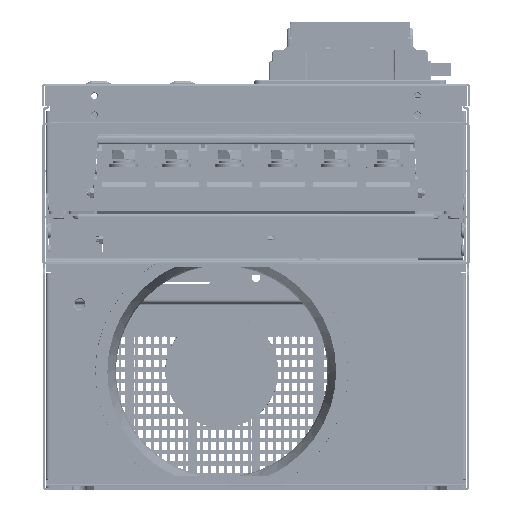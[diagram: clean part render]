
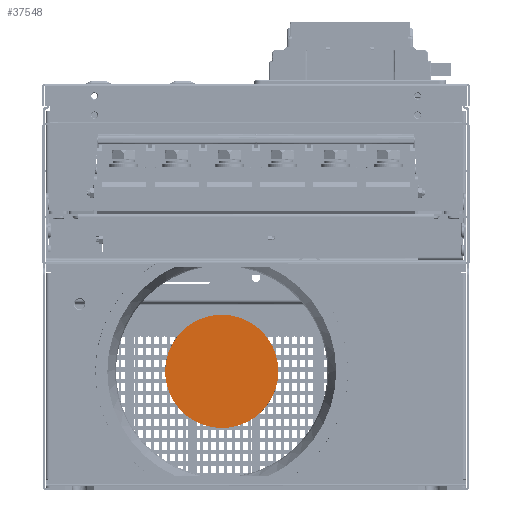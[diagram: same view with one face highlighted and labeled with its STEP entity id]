
A CAD part, front view. The second image highlights one B-rep face of the part: STEP entity #37548.
In plain terms, the highlighted planar face has unit normal (0, -1, 0).
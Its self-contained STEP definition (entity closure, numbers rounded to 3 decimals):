
#37548=ADVANCED_FACE('',(#50160),#370050,.T.);
#50160=FACE_OUTER_BOUND('',#63398,.T.);
#63398=EDGE_LOOP('',(#96954,#96955,#96956,#96957));
#96954=ORIENTED_EDGE('',*,*,#174765,.F.);
#96955=ORIENTED_EDGE('',*,*,#174764,.F.);
#96956=ORIENTED_EDGE('',*,*,#174767,.F.);
#96957=ORIENTED_EDGE('',*,*,#174766,.F.);
#174764=EDGE_CURVE('',#314139,#314140,#394226,.T.);
#174765=EDGE_CURVE('',#314140,#314141,#394227,.T.);
#174766=EDGE_CURVE('',#314141,#314142,#394228,.T.);
#174767=EDGE_CURVE('',#314142,#314139,#394229,.T.);
#314139=VERTEX_POINT('',#564930);
#314140=VERTEX_POINT('',#564931);
#314141=VERTEX_POINT('',#564932);
#314142=VERTEX_POINT('',#564933);
#370050=PLANE('',#406173);
#394226=(
BOUNDED_CURVE()
B_SPLINE_CURVE(2,(#564934,#564935,#564936),.UNSPECIFIED.,.F.,.F.)
B_SPLINE_CURVE_WITH_KNOTS((3,3),(0.,60.476),.UNSPECIFIED.)
CURVE()
GEOMETRIC_REPRESENTATION_ITEM()
RATIONAL_B_SPLINE_CURVE((1.,0.707,1.))
REPRESENTATION_ITEM('')
);
#394227=(
BOUNDED_CURVE()
B_SPLINE_CURVE(2,(#564937,#564938,#564939),.UNSPECIFIED.,.F.,.F.)
B_SPLINE_CURVE_WITH_KNOTS((3,3),(0.,60.476),.UNSPECIFIED.)
CURVE()
GEOMETRIC_REPRESENTATION_ITEM()
RATIONAL_B_SPLINE_CURVE((1.,0.707,1.))
REPRESENTATION_ITEM('')
);
#394228=(
BOUNDED_CURVE()
B_SPLINE_CURVE(2,(#564940,#564941,#564942),.UNSPECIFIED.,.F.,.F.)
B_SPLINE_CURVE_WITH_KNOTS((3,3),(0.,60.476),.UNSPECIFIED.)
CURVE()
GEOMETRIC_REPRESENTATION_ITEM()
RATIONAL_B_SPLINE_CURVE((1.,0.707,1.))
REPRESENTATION_ITEM('')
);
#394229=(
BOUNDED_CURVE()
B_SPLINE_CURVE(2,(#564943,#564944,#564945),.UNSPECIFIED.,.F.,.F.)
B_SPLINE_CURVE_WITH_KNOTS((3,3),(0.,60.476),.UNSPECIFIED.)
CURVE()
GEOMETRIC_REPRESENTATION_ITEM()
RATIONAL_B_SPLINE_CURVE((1.,0.707,1.))
REPRESENTATION_ITEM('')
);
#406173=AXIS2_PLACEMENT_3D('',#564929,#413224,$);
#413224=DIRECTION('',(0.,-1.,0.));
#564929=CARTESIAN_POINT('',(22.96,-314.,126.96));
#564930=CARTESIAN_POINT('',(-23.3,-314.,42.2));
#564931=CARTESIAN_POINT('',(-61.8,-314.,80.7));
#564932=CARTESIAN_POINT('',(-23.3,-314.,119.2));
#564933=CARTESIAN_POINT('',(15.2,-314.,80.7));
#564934=CARTESIAN_POINT('',(-23.3,-314.,42.2));
#564935=CARTESIAN_POINT('',(-61.8,-314.,42.2));
#564936=CARTESIAN_POINT('',(-61.8,-314.,80.7));
#564937=CARTESIAN_POINT('',(-61.8,-314.,80.7));
#564938=CARTESIAN_POINT('',(-61.8,-314.,119.2));
#564939=CARTESIAN_POINT('',(-23.3,-314.,119.2));
#564940=CARTESIAN_POINT('',(-23.3,-314.,119.2));
#564941=CARTESIAN_POINT('',(15.2,-314.,119.2));
#564942=CARTESIAN_POINT('',(15.2,-314.,80.7));
#564943=CARTESIAN_POINT('',(15.2,-314.,80.7));
#564944=CARTESIAN_POINT('',(15.2,-314.,42.2));
#564945=CARTESIAN_POINT('',(-23.3,-314.,42.2));
